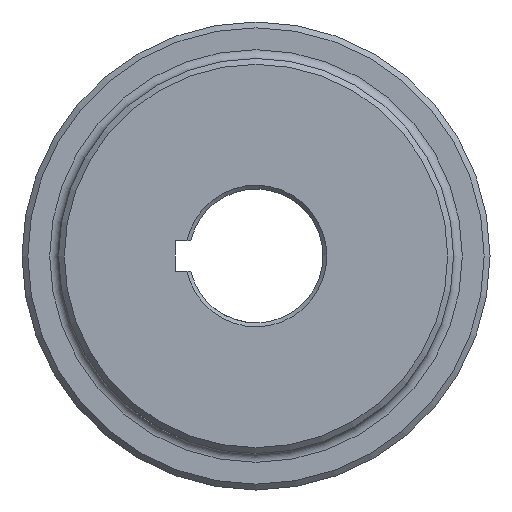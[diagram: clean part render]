
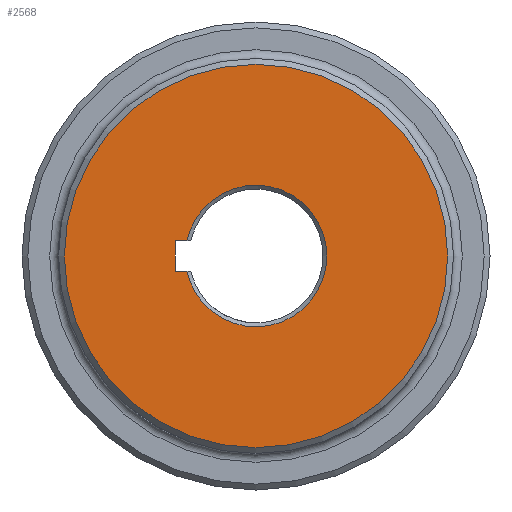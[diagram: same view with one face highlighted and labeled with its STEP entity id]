
A CAD part, left-side view. The second image highlights one B-rep face of the part: STEP entity #2568.
In plain terms, the highlighted planar face has unit normal (-1, 0, 0).
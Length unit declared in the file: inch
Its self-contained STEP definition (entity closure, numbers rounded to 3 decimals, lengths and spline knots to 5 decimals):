
#112 = ORIENTED_EDGE ( 'NONE', *, *, #272, .F. ) ;
#120 = EDGE_CURVE ( 'NONE', #526, #1067, #2080, .T. ) ;
#138 = CARTESIAN_POINT ( 'NONE',  ( 0., 0.71083, -0.156 ) ) ;
#272 = EDGE_CURVE ( 'NONE', #1067, #1317, #292, .T. ) ;
#292 = LINE ( 'NONE', #1855, #626 ) ;
#308 = PLANE ( 'NONE',  #1277 ) ;
#405 = ORIENTED_EDGE ( 'NONE', *, *, #2598, .F. ) ;
#414 = ORIENTED_EDGE ( 'NONE', *, *, #120, .F. ) ;
#526 = VERTEX_POINT ( 'NONE', #799 ) ;
#573 = FACE_BOUND ( 'NONE', #1446, .T. ) ;
#589 = DIRECTION ( 'NONE',  ( 0., 0., -1. ) ) ;
#626 = VECTOR ( 'NONE', #646, 39.37008 ) ;
#627 = CARTESIAN_POINT ( 'NONE',  ( 0., 0.83125, -0.156 ) ) ;
#646 = DIRECTION ( 'NONE',  ( 0., -1., 0. ) ) ;
#666 = VERTEX_POINT ( 'NONE', #828 ) ;
#756 = DIRECTION ( 'NONE',  ( 0., 1., 0. ) ) ;
#779 = DIRECTION ( 'NONE',  ( 1., 0., 0. ) ) ;
#799 = CARTESIAN_POINT ( 'NONE',  ( 0., 0.83125, 0.156 ) ) ;
#828 = CARTESIAN_POINT ( 'NONE',  ( 0., 0., -1.97 ) ) ;
#920 = DIRECTION ( 'NONE',  ( 0., 0., -1. ) ) ;
#1067 = VERTEX_POINT ( 'NONE', #2556 ) ;
#1125 = ORIENTED_EDGE ( 'NONE', *, *, #1154, .T. ) ;
#1154 = EDGE_CURVE ( 'NONE', #1655, #1317, #2464, .T. ) ;
#1212 = ORIENTED_EDGE ( 'NONE', *, *, #1630, .T. ) ;
#1277 = AXIS2_PLACEMENT_3D ( 'NONE', #1380, #2199, #2109 ) ;
#1317 = VERTEX_POINT ( 'NONE', #138 ) ;
#1380 = CARTESIAN_POINT ( 'NONE',  ( 0., 0., 0. ) ) ;
#1408 = AXIS2_PLACEMENT_3D ( 'NONE', #1904, #1860, #920 ) ;
#1422 = DIRECTION ( 'NONE',  ( 0., 0., -1. ) ) ;
#1427 = VECTOR ( 'NONE', #756, 39.37008 ) ;
#1446 = EDGE_LOOP ( 'NONE', ( #405, #1125, #112, #414 ) ) ;
#1462 = CARTESIAN_POINT ( 'NONE',  ( 0., 0.71083, 0.156 ) ) ;
#1476 = CARTESIAN_POINT ( 'NONE',  ( 0., 0., 0.156 ) ) ;
#1630 = EDGE_CURVE ( 'NONE', #666, #666, #1810, .T. ) ;
#1655 = VERTEX_POINT ( 'NONE', #1462 ) ;
#1668 = VECTOR ( 'NONE', #589, 39.37008 ) ;
#1728 = CARTESIAN_POINT ( 'NONE',  ( 0., 0., 0. ) ) ;
#1810 = CIRCLE ( 'NONE', #1408, 1.97 ) ;
#1855 = CARTESIAN_POINT ( 'NONE',  ( 0., 0., -0.156 ) ) ;
#1860 = DIRECTION ( 'NONE',  ( -1., 0., 0. ) ) ;
#1904 = CARTESIAN_POINT ( 'NONE',  ( 0., 0., 0. ) ) ;
#1912 = FACE_OUTER_BOUND ( 'NONE', #2514, .T. ) ;
#2080 = LINE ( 'NONE', #627, #1668 ) ;
#2109 = DIRECTION ( 'NONE',  ( 0., 0., -1. ) ) ;
#2199 = DIRECTION ( 'NONE',  ( 1., 0., 0. ) ) ;
#2464 = CIRCLE ( 'NONE', #2737, 0.72775 ) ;
#2514 = EDGE_LOOP ( 'NONE', ( #1212 ) ) ;
#2542 = LINE ( 'NONE', #1476, #1427 ) ;
#2556 = CARTESIAN_POINT ( 'NONE',  ( 0., 0.83125, -0.156 ) ) ;
#2568 = ADVANCED_FACE ( 'NONE', ( #1912, #573 ), #308, .F. ) ;
#2598 = EDGE_CURVE ( 'NONE', #1655, #526, #2542, .T. ) ;
#2737 = AXIS2_PLACEMENT_3D ( 'NONE', #1728, #779, #1422 ) ;
